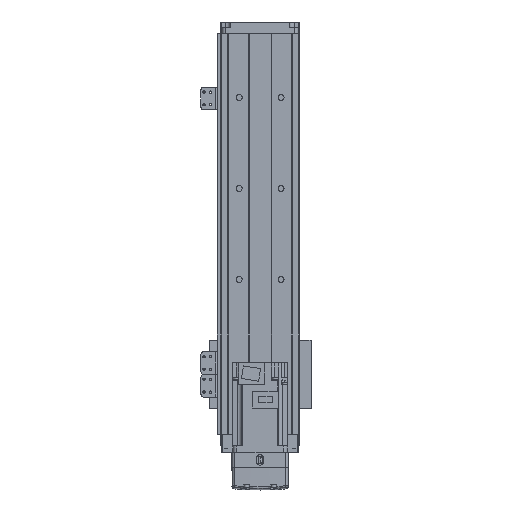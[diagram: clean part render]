
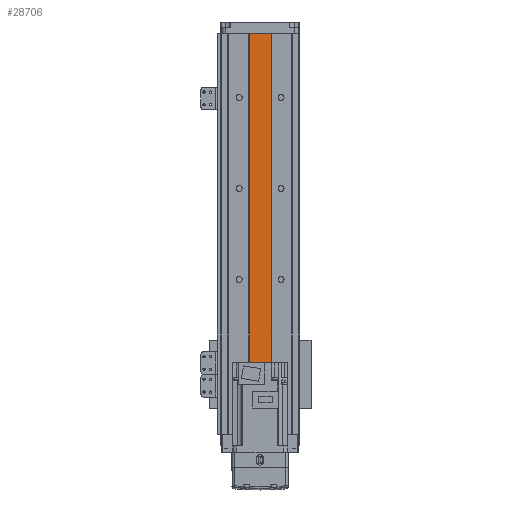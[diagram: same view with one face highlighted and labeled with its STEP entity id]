
A CAD part, front view. The second image highlights one B-rep face of the part: STEP entity #28706.
In plain terms, the highlighted planar face has unit normal (0, -1, 0).
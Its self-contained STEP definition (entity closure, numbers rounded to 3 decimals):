
#2351 = ORIENTED_EDGE ( 'NONE', *, *, #17357, .F. ) ;
#3088 = LINE ( 'NONE', #38150, #37154 ) ;
#5233 = DIRECTION ( 'NONE',  ( 0., 0., -1. ) ) ;
#12567 = CARTESIAN_POINT ( 'NONE',  ( 11.731, -13.462, 440. ) ) ;
#14366 = PLANE ( 'NONE',  #46774 ) ;
#15205 = EDGE_CURVE ( 'NONE', #53487, #24716, #3088, .T. ) ;
#16458 = ORIENTED_EDGE ( 'NONE', *, *, #15205, .F. ) ;
#17357 = EDGE_CURVE ( 'NONE', #24716, #44251, #20504, .T. ) ;
#18731 = CARTESIAN_POINT ( 'NONE',  ( -12.269, -13.462, 440. ) ) ;
#19173 = FACE_OUTER_BOUND ( 'NONE', #33036, .T. ) ;
#19258 = DIRECTION ( 'NONE',  ( -1., 0., 0. ) ) ;
#20201 = EDGE_CURVE ( 'NONE', #44251, #35722, #29400, .T. ) ;
#20504 = LINE ( 'NONE', #25164, #49257 ) ;
#23134 = DIRECTION ( 'NONE',  ( 0., 0., 1. ) ) ;
#24716 = VERTEX_POINT ( 'NONE', #34750 ) ;
#25164 = CARTESIAN_POINT ( 'NONE',  ( -12.269, -13.462, 440. ) ) ;
#25969 = ORIENTED_EDGE ( 'NONE', *, *, #40035, .F. ) ;
#28706 = ADVANCED_FACE ( 'NONE', ( #19173 ), #14366, .F. ) ;
#29400 = LINE ( 'NONE', #36320, #44355 ) ;
#33036 = EDGE_LOOP ( 'NONE', ( #37455, #2351, #16458, #25969 ) ) ;
#33388 = CARTESIAN_POINT ( 'NONE',  ( -12.269, -13.462, 0. ) ) ;
#34750 = CARTESIAN_POINT ( 'NONE',  ( -12.269, -13.462, 440. ) ) ;
#34799 = LINE ( 'NONE', #35730, #52553 ) ;
#35722 = VERTEX_POINT ( 'NONE', #42095 ) ;
#35730 = CARTESIAN_POINT ( 'NONE',  ( -12.269, -13.462, 0. ) ) ;
#36320 = CARTESIAN_POINT ( 'NONE',  ( 11.731, -13.462, 440. ) ) ;
#37154 = VECTOR ( 'NONE', #42689, 1000. ) ;
#37455 = ORIENTED_EDGE ( 'NONE', *, *, #20201, .F. ) ;
#38150 = CARTESIAN_POINT ( 'NONE',  ( -12.269, -13.462, 440. ) ) ;
#40035 = EDGE_CURVE ( 'NONE', #35722, #53487, #34799, .T. ) ;
#40137 = DIRECTION ( 'NONE',  ( 0., 1., 0. ) ) ;
#42095 = CARTESIAN_POINT ( 'NONE',  ( 11.731, -13.462, 0. ) ) ;
#42689 = DIRECTION ( 'NONE',  ( 0., 0., 1. ) ) ;
#44251 = VERTEX_POINT ( 'NONE', #12567 ) ;
#44355 = VECTOR ( 'NONE', #5233, 1000. ) ;
#46774 = AXIS2_PLACEMENT_3D ( 'NONE', #18731, #40137, #23134 ) ;
#49257 = VECTOR ( 'NONE', #51537, 1000. ) ;
#51537 = DIRECTION ( 'NONE',  ( 1., 0., 0. ) ) ;
#52553 = VECTOR ( 'NONE', #19258, 1000. ) ;
#53487 = VERTEX_POINT ( 'NONE', #33388 ) ;
